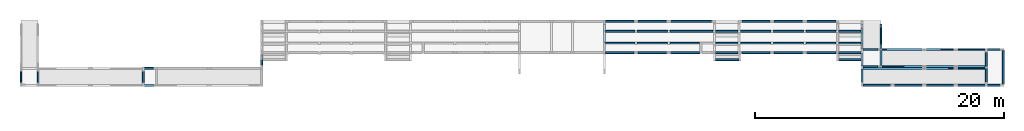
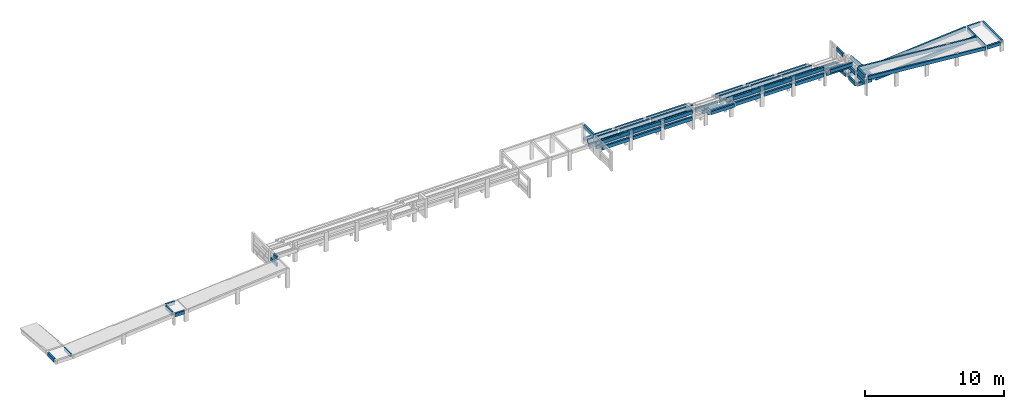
# One storey, part 5 of 9: 78 beams.
"""IFC4 building model written with IfcOpenShell, lengths in centimetres."""

from ifc_helpers import new_model, si_unit, derived_unit, frame, origin_with_axes, origin_2d_with_axis, place, context, project, spatial, rectangle, extrude, clip, halfspace, material, element, save


model = new_model("IFC4")

# Units and contexts
model_context = context("Model", 3, precision=1e-05, world=origin_with_axes(), identifier="Body")
ifc_project = project(units=[si_unit("LENGTHUNIT", "METRE", prefix="CENTI"), si_unit("VOLUMEUNIT", "CUBIC_METRE"), si_unit("AREAUNIT", "SQUARE_METRE"), si_unit("POWERUNIT", "WATT"), si_unit("LUMINOUSFLUXUNIT", "LUMEN"), si_unit("ELECTRICCURRENTUNIT", "AMPERE"), si_unit("PRESSUREUNIT", "PASCAL", prefix="KILO"), si_unit("MASSUNIT", "GRAM", prefix="KILO"), si_unit("PLANEANGLEUNIT", "RADIAN"), derived_unit("VOLUMETRICFLOWRATEUNIT", [(si_unit("LENGTHUNIT", "METRE"), 3), (si_unit("TIMEUNIT", "SECOND"), -1)])], contexts=[model_context])

# Site, building, storey
site_placement = place(None, origin_with_axes())
site = spatial("IfcSite", under=ifc_project, at=site_placement)
building_placement = place(site_placement, frame((0.0, 0.0, -170.0)))
building = spatial("IfcBuilding", under=site, at=building_placement)
placement = place(building_placement, origin_with_axes())
storey_placement = place(placement, frame((0.0, 0.0, 170.0), z_axis=(0.0, 0.0, 1.0), x_axis=(1.0, 0.0, 0.0)))
storey = spatial("IfcBuildingStorey", under=building, at=storey_placement, Name="Arquibancada", CompositionType="ELEMENT", Elevation=0.0)

# Beams
ifc_material = material(Name="Concreto")
beam_1_placement = place(storey_placement, frame((4820.12, 250.5, 0.0), z_axis=(0.0, 0.0, 1.0), x_axis=(1.0, 0.0, 0.0)))
element("IfcBeam", 1, at=beam_1_placement, inside=storey, material=ifc_material, Name="V10", context=model_context, shape_type="SolidModel", body=[
    extrude(rectangle(XDim=14.0, YDim=30.0, at=origin_2d_with_axis()), frame((0.0, -47.5, -15.0), z_axis=(0.0, 1.0, 0.0), x_axis=(1.0, 0.0, 0.0)), (0.0, 0.0, 1.0), 95.0),
])
beam_2_placement = place(storey_placement, frame((4820.12, -53.5, 0.0), z_axis=(0.0, 0.0, 1.0), x_axis=(1.0, 0.0, 0.0)))
element("IfcBeam", 2, at=beam_2_placement, inside=storey, material=ifc_material, Name="V10", context=model_context, shape_type="SolidModel", body=[
    extrude(rectangle(XDim=14.0, YDim=30.0, at=origin_2d_with_axis()), frame((0.0, -53.0, -15.0), z_axis=(0.0, 1.0, 0.0), x_axis=(1.0, 0.0, 0.0)), (0.0, 0.0, 1.0), 106.0),
])
beam_3_placement = place(storey_placement, frame((4493.895, 385.0, -132.0), z_axis=(0.0, 0.0, 1.0), x_axis=(1.0, 0.0, 0.0)))
element("IfcBeam", 3, at=beam_3_placement, inside=storey, material=ifc_material, Name="V103", context=model_context, shape_type="SolidModel", body=[
    extrude(rectangle(XDim=14.0, YDim=30.0, at=origin_2d_with_axis()), frame((-118.725, 0.0, -15.0), z_axis=(1.0, 0.0, 0.0), x_axis=(0.0, 1.0, 0.0)), (0.0, 0.0, 1.0), 237.45),
])
beam_4_placement = place(storey_placement, frame((3970.315, 385.0, -132.0), z_axis=(0.0, 0.0, 1.0), x_axis=(1.0, 0.0, 0.0)))
element("IfcBeam", 4, at=beam_4_placement, inside=storey, material=ifc_material, Name="V103", context=model_context, shape_type="SolidModel", body=[
    extrude(rectangle(XDim=14.0, YDim=30.0, at=origin_2d_with_axis()), frame((-113.225, 0.0, -15.0), z_axis=(1.0, 0.0, 0.0), x_axis=(0.0, 1.0, 0.0)), (0.0, 0.0, 1.0), 226.45),
])
beam_5_placement = place(storey_placement, frame((4229.355, 385.0, -132.0), z_axis=(0.0, 0.0, 1.0), x_axis=(1.0, 0.0, 0.0)))
element("IfcBeam", 5, at=beam_5_placement, inside=storey, material=ifc_material, Name="V103", context=model_context, shape_type="SolidModel", body=[
    extrude(rectangle(XDim=14.0, YDim=30.0, at=origin_2d_with_axis()), frame((-115.815, 0.0, -15.0), z_axis=(1.0, 0.0, 0.0), x_axis=(0.0, 1.0, 0.0)), (0.0, 0.0, 1.0), 231.63),
])
beam_6_placement = place(storey_placement, frame((5321.12, 6.5, 0.0), z_axis=(0.0, 0.0, 1.0), x_axis=(1.0, 0.0, 0.0)))
element("IfcBeam", 6, at=beam_6_placement, inside=storey, material=ifc_material, Name="V12", context=model_context, shape_type="Clipping", body=[
    clip(clip(extrude(rectangle(XDim=14.0, YDim=30.0, at=origin_2d_with_axis()), frame((-495.24067352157, 0.0, -14.948602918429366), z_axis=(-0.996573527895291, 0.0, 0.08271156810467), x_axis=(0.0, -1.0, 0.0)), (0.0, 0.0, -1.0), 993.8868726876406), halfspace(frame((-494.0, 0.0, 0.0), z_axis=(1.0, 0.0, 0.0), x_axis=(0.0, 0.08271156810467, 0.0)), True)), halfspace(frame((494.0, 0.0, -82.0), z_axis=(-1.0, 0.0, 0.0), x_axis=(0.0, -0.08271156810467, 0.0)), True)),
])
beam_7_placement = place(storey_placement, frame((5317.62, -129.5, 0.0), z_axis=(0.0, 0.0, 1.0), x_axis=(1.0, 0.0, 0.0)))
element("IfcBeam", 7, at=beam_7_placement, inside=storey, material=ifc_material, Name="V14", context=model_context, shape_type="Clipping", body=[
    clip(clip(extrude(rectangle(XDim=14.0, YDim=30.0, at=origin_2d_with_axis()), frame((-491.7494652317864, 0.0, -14.947870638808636), z_axis=(-0.996524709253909, 0.0, 0.083297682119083), x_axis=(0.0, -1.0, 0.0)), (0.0, 0.0, -1.0), 986.9287949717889), halfspace(frame((-490.5, 0.0, 0.0), z_axis=(1.0, 0.0, 0.0), x_axis=(0.0, 0.083297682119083, 0.0)), True)), halfspace(frame((490.5, 0.0, -82.0), z_axis=(-1.0, 0.0, 0.0), x_axis=(0.0, -0.083297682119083, 0.0)), True)),
])
beam_8_placement = place(storey_placement, frame((3138.98, 210.0, -56.0), z_axis=(0.0, 0.0, 1.0), x_axis=(1.0, 0.0, 0.0)))
element("IfcBeam", 8, at=beam_8_placement, inside=storey, material=ifc_material, Name="V19", context=model_context, shape_type="SolidModel", body=[
    extrude(rectangle(XDim=14.0, YDim=30.0, at=origin_2d_with_axis()), frame((-121.47, 0.0, -15.0), z_axis=(1.0, 0.0, 0.0), x_axis=(0.0, 1.0, 0.0)), (0.0, 0.0, 1.0), 242.94),
])
beam_9_placement = place(storey_placement, frame((3398.505, 210.0, -56.0), z_axis=(0.0, 0.0, 1.0), x_axis=(1.0, 0.0, 0.0)))
element("IfcBeam", 9, at=beam_9_placement, inside=storey, material=ifc_material, Name="V19", context=model_context, shape_type="SolidModel", body=[
    extrude(rectangle(XDim=14.0, YDim=30.0, at=origin_2d_with_axis()), frame((-119.055, 0.0, -15.0), z_axis=(1.0, 0.0, 0.0), x_axis=(0.0, 1.0, 0.0)), (0.0, 0.0, 1.0), 238.11),
])
beam_10_placement = place(storey_placement, frame((2880.035, 210.0, -56.0), z_axis=(0.0, 0.0, 1.0), x_axis=(1.0, 0.0, 0.0)))
element("IfcBeam", 10, at=beam_10_placement, inside=storey, material=ifc_material, Name="V19", context=model_context, shape_type="SolidModel", body=[
    extrude(rectangle(XDim=14.0, YDim=30.0, at=origin_2d_with_axis()), frame((-118.475, 0.0, -15.0), z_axis=(1.0, 0.0, 0.0), x_axis=(0.0, 1.0, 0.0)), (0.0, 0.0, 1.0), 236.95),
])
beam_11_placement = place(storey_placement, frame((3401.255, 131.0, -56.0), z_axis=(0.0, 0.0, 1.0), x_axis=(1.0, 0.0, 0.0)))
element("IfcBeam", 11, at=beam_11_placement, inside=storey, material=ifc_material, Name="V23", context=model_context, shape_type="SolidModel", body=[
    extrude(rectangle(XDim=14.0, YDim=30.0, at=origin_2d_with_axis()), frame((-116.305, 0.0, -15.0), z_axis=(1.0, 0.0, 0.0), x_axis=(0.0, 1.0, 0.0)), (0.0, 0.0, 1.0), 232.61),
])
beam_12_placement = place(storey_placement, frame((2877.285, 131.0, -56.0), z_axis=(0.0, 0.0, 1.0), x_axis=(1.0, 0.0, 0.0)))
element("IfcBeam", 12, at=beam_12_placement, inside=storey, material=ifc_material, Name="V23", context=model_context, shape_type="SolidModel", body=[
    extrude(rectangle(XDim=14.0, YDim=30.0, at=origin_2d_with_axis()), frame((-115.725, 0.0, -15.0), z_axis=(1.0, 0.0, 0.0), x_axis=(0.0, 1.0, 0.0)), (0.0, 0.0, 1.0), 231.45),
])
beam_13_placement = place(storey_placement, frame((3138.98, 131.0, -56.0), z_axis=(0.0, 0.0, 1.0), x_axis=(1.0, 0.0, 0.0)))
element("IfcBeam", 13, at=beam_13_placement, inside=storey, material=ifc_material, Name="V23", context=model_context, shape_type="SolidModel", body=[
    extrude(rectangle(XDim=14.0, YDim=30.0, at=origin_2d_with_axis()), frame((-115.97, 0.0, -15.0), z_axis=(1.0, 0.0, 0.0), x_axis=(0.0, 1.0, 0.0)), (0.0, 0.0, 1.0), 231.94),
])
beam_14_placement = place(storey_placement, frame((4493.895, 131.0, -56.0), z_axis=(0.0, 0.0, 1.0), x_axis=(1.0, 0.0, 0.0)))
element("IfcBeam", 14, at=beam_14_placement, inside=storey, material=ifc_material, Name="V24", context=model_context, shape_type="SolidModel", body=[
    extrude(rectangle(XDim=14.0, YDim=30.0, at=origin_2d_with_axis()), frame((-118.725, 0.0, -15.0), z_axis=(1.0, 0.0, 0.0), x_axis=(0.0, 1.0, 0.0)), (0.0, 0.0, 1.0), 237.45),
])
beam_15_placement = place(storey_placement, frame((4229.355, 131.0, -56.0), z_axis=(0.0, 0.0, 1.0), x_axis=(1.0, 0.0, 0.0)))
element("IfcBeam", 15, at=beam_15_placement, inside=storey, material=ifc_material, Name="V24", context=model_context, shape_type="SolidModel", body=[
    extrude(rectangle(XDim=14.0, YDim=30.0, at=origin_2d_with_axis()), frame((-115.815, 0.0, -15.0), z_axis=(1.0, 0.0, 0.0), x_axis=(0.0, 1.0, 0.0)), (0.0, 0.0, 1.0), 231.63),
])
beam_16_placement = place(storey_placement, frame((3970.315, 131.0, -56.0), z_axis=(0.0, 0.0, 1.0), x_axis=(1.0, 0.0, 0.0)))
element("IfcBeam", 16, at=beam_16_placement, inside=storey, material=ifc_material, Name="V24", context=model_context, shape_type="SolidModel", body=[
    extrude(rectangle(XDim=14.0, YDim=30.0, at=origin_2d_with_axis()), frame((-113.225, 0.0, -15.0), z_axis=(1.0, 0.0, 0.0), x_axis=(0.0, 1.0, 0.0)), (0.0, 0.0, 1.0), 226.45),
])
beam_17_placement = place(storey_placement, frame((3735.59, 131.0, -56.0), z_axis=(0.0, 0.0, 1.0), x_axis=(1.0, 0.0, 0.0)))
element("IfcBeam", 17, at=beam_17_placement, inside=storey, material=ifc_material, Name="V24", context=model_context, shape_type="SolidModel", body=[
    extrude(rectangle(XDim=14.0, YDim=30.0, at=origin_2d_with_axis()), frame((-91.5, 0.0, -15.0), z_axis=(1.0, 0.0, 0.0), x_axis=(0.0, 1.0, 0.0)), (0.0, 0.0, 1.0), 183.0),
])
beam_18_placement = place(storey_placement, frame((4722.37, 131.0, -56.0), z_axis=(0.0, 0.0, 1.0), x_axis=(1.0, 0.0, 0.0)))
element("IfcBeam", 18, at=beam_18_placement, inside=storey, material=ifc_material, Name="V24", context=model_context, shape_type="SolidModel", body=[
    extrude(rectangle(XDim=14.0, YDim=30.0, at=origin_2d_with_axis()), frame((-90.75, 0.0, -15.0), z_axis=(1.0, 0.0, 0.0), x_axis=(0.0, 1.0, 0.0)), (0.0, 0.0, 1.0), 181.5),
])
for number, where, z_axis, x_axis, name in (
    (19, (-898.5, 7.0, -69.0), (0.0, 0.0, 1.0), (1.0, 0.0, 0.0), "V25"),
    (20, (-898.5, -130.0, -69.0), (0.0, 0.0, 1.0), (1.0, 0.0, 0.0), "V26"),
):
    element("IfcBeam", number, at=place(storey_placement, frame(where, z_axis=z_axis, x_axis=x_axis)), inside=storey, material=ifc_material, Name=name, context=model_context, shape_type="SolidModel", body=[
        extrude(rectangle(XDim=14.0, YDim=30.0, at=origin_2d_with_axis()), frame((-38.0, 0.0, -15.0), z_axis=(1.0, 0.0, 0.0), x_axis=(0.0, -1.0, 0.0)), (0.0, 0.0, 1.0), 76.0),
    ])
beam_19_placement = place(storey_placement, frame((-943.5, -61.5, -69.0), z_axis=(0.0, 0.0, 1.0), x_axis=(1.0, 0.0, 0.0)))
element("IfcBeam", 21, at=beam_19_placement, inside=storey, material=ifc_material, Name="V27", context=model_context, shape_type="SolidModel", body=[
    extrude(rectangle(XDim=14.0, YDim=30.0, at=origin_2d_with_axis()), frame((0.0, -45.5, -15.0), z_axis=(0.0, 1.0, 0.0), x_axis=(-1.0, 0.0, 0.0)), (0.0, 0.0, 1.0), 91.0),
])
beam_20_placement = place(storey_placement, frame((7.5, 73.0, -56.0), z_axis=(0.0, 0.0, 1.0), x_axis=(1.0, 0.0, 0.0)))
element("IfcBeam", 22, at=beam_20_placement, inside=storey, material=ifc_material, Name="V29", context=model_context, shape_type="SolidModel", body=[
    extrude(rectangle(XDim=14.0, YDim=30.0, at=origin_2d_with_axis()), frame((0.0, -43.0, -15.0), z_axis=(0.0, 1.0, 0.0), x_axis=(-1.0, 0.0, 0.0)), (0.0, 0.0, 1.0), 86.0),
])
beam_21_placement = place(storey_placement, frame((3401.255, 131.0, 0.0), z_axis=(0.0, 0.0, 1.0), x_axis=(1.0, 0.0, 0.0)))
element("IfcBeam", 23, at=beam_21_placement, inside=storey, material=ifc_material, Name="V3", context=model_context, shape_type="SolidModel", body=[
    extrude(rectangle(XDim=14.0, YDim=30.0, at=origin_2d_with_axis()), frame((-116.305, 0.0, -15.0), z_axis=(1.0, 0.0, 0.0), x_axis=(0.0, 1.0, 0.0)), (0.0, 0.0, 1.0), 232.61),
])
beam_22_placement = place(storey_placement, frame((3138.98, 131.0, 0.0), z_axis=(0.0, 0.0, 1.0), x_axis=(1.0, 0.0, 0.0)))
element("IfcBeam", 24, at=beam_22_placement, inside=storey, material=ifc_material, Name="V3", context=model_context, shape_type="SolidModel", body=[
    extrude(rectangle(XDim=14.0, YDim=30.0, at=origin_2d_with_axis()), frame((-115.97, 0.0, -15.0), z_axis=(1.0, 0.0, 0.0), x_axis=(0.0, 1.0, 0.0)), (0.0, 0.0, 1.0), 231.94),
])
beam_23_placement = place(storey_placement, frame((2877.285, 131.0, 0.0), z_axis=(0.0, 0.0, 1.0), x_axis=(1.0, 0.0, 0.0)))
element("IfcBeam", 25, at=beam_23_placement, inside=storey, material=ifc_material, Name="V3", context=model_context, shape_type="SolidModel", body=[
    extrude(rectangle(XDim=14.0, YDim=30.0, at=origin_2d_with_axis()), frame((-115.725, 0.0, -15.0), z_axis=(1.0, 0.0, 0.0), x_axis=(0.0, 1.0, 0.0)), (0.0, 0.0, 1.0), 231.45),
])
beam_24_placement = place(storey_placement, frame((4820.12, 76.25, -56.0), z_axis=(0.0, 0.0, 1.0), x_axis=(1.0, 0.0, 0.0)))
element("IfcBeam", 26, at=beam_24_placement, inside=storey, material=ifc_material, Name="V31", context=model_context, shape_type="SolidModel", body=[
    extrude(rectangle(XDim=14.0, YDim=30.0, at=origin_2d_with_axis()), frame((0.0, -47.75, -15.0), z_axis=(0.0, 1.0, 0.0), x_axis=(1.0, 0.0, 0.0)), (0.0, 0.0, 1.0), 95.5),
])
beam_25_placement = place(storey_placement, frame((4820.12, -53.5, -56.0), z_axis=(0.0, 0.0, 1.0), x_axis=(1.0, 0.0, 0.0)))
element("IfcBeam", 27, at=beam_25_placement, inside=storey, material=ifc_material, Name="V31", context=model_context, shape_type="SolidModel", body=[
    extrude(rectangle(XDim=14.0, YDim=30.0, at=origin_2d_with_axis()), frame((0.0, -53.0, -15.0), z_axis=(0.0, 1.0, 0.0), x_axis=(1.0, 0.0, 0.0)), (0.0, 0.0, 1.0), 106.0),
])
beam_26_placement = place(storey_placement, frame((3452.27, 305.0, -94.0), z_axis=(0.0, 0.0, 1.0), x_axis=(1.0, 0.0, 0.0)))
element("IfcBeam", 28, at=beam_26_placement, inside=storey, material=ifc_material, Name="V36", context=model_context, shape_type="SolidModel", body=[
    extrude(rectangle(XDim=14.0, YDim=30.0, at=origin_2d_with_axis()), frame((-172.82, 0.0, -15.0), z_axis=(1.0, 0.0, 0.0), x_axis=(0.0, 1.0, 0.0)), (0.0, 0.0, 1.0), 345.64),
])
beam_27_placement = place(storey_placement, frame((2873.035, 305.0, -94.0), z_axis=(0.0, 0.0, 1.0), x_axis=(1.0, 0.0, 0.0)))
element("IfcBeam", 29, at=beam_27_placement, inside=storey, material=ifc_material, Name="V36", context=model_context, shape_type="SolidModel", body=[
    extrude(rectangle(XDim=14.0, YDim=30.0, at=origin_2d_with_axis()), frame((-125.475, 0.0, -15.0), z_axis=(1.0, 0.0, 0.0), x_axis=(0.0, 1.0, 0.0)), (0.0, 0.0, 1.0), 250.95),
])
beam_28_placement = place(storey_placement, frame((3138.98, 305.0, -94.0), z_axis=(0.0, 0.0, 1.0), x_axis=(1.0, 0.0, 0.0)))
element("IfcBeam", 30, at=beam_28_placement, inside=storey, material=ifc_material, Name="V36", context=model_context, shape_type="SolidModel", body=[
    extrude(rectangle(XDim=14.0, YDim=30.0, at=origin_2d_with_axis()), frame((-121.47, 0.0, -15.0), z_axis=(1.0, 0.0, 0.0), x_axis=(0.0, 1.0, 0.0)), (0.0, 0.0, 1.0), 242.94),
])
for number, where, z_axis, x_axis, name in (
    (31, (3967.565, 210.0, -94.0), (0.0, 0.0, 1.0), (1.0, 0.0, 0.0), "V38"),
    (32, (4491.145, 210.0, -94.0), (0.0, 0.0, 1.0), (1.0, 0.0, 0.0), "V38"),
):
    element("IfcBeam", number, at=place(storey_placement, frame(where, z_axis=z_axis, x_axis=x_axis)), inside=storey, material=ifc_material, Name=name, context=model_context, shape_type="SolidModel", body=[
        extrude(rectangle(XDim=14.0, YDim=30.0, at=origin_2d_with_axis()), frame((-121.475, 0.0, -15.0), z_axis=(1.0, 0.0, 0.0), x_axis=(0.0, 1.0, 0.0)), (0.0, 0.0, 1.0), 242.95),
    ])
beam_29_placement = place(storey_placement, frame((4722.37, 210.0, -94.0), z_axis=(0.0, 0.0, 1.0), x_axis=(1.0, 0.0, 0.0)))
element("IfcBeam", 33, at=beam_29_placement, inside=storey, material=ifc_material, Name="V38", context=model_context, shape_type="SolidModel", body=[
    extrude(rectangle(XDim=14.0, YDim=30.0, at=origin_2d_with_axis()), frame((-90.75, 0.0, -15.0), z_axis=(1.0, 0.0, 0.0), x_axis=(0.0, 1.0, 0.0)), (0.0, 0.0, 1.0), 181.5),
])
beam_30_placement = place(storey_placement, frame((4229.355, 210.0, -94.0), z_axis=(0.0, 0.0, 1.0), x_axis=(1.0, 0.0, 0.0)))
element("IfcBeam", 34, at=beam_30_placement, inside=storey, material=ifc_material, Name="V38", context=model_context, shape_type="SolidModel", body=[
    extrude(rectangle(XDim=14.0, YDim=30.0, at=origin_2d_with_axis()), frame((-121.315, 0.0, -15.0), z_axis=(1.0, 0.0, 0.0), x_axis=(0.0, 1.0, 0.0)), (0.0, 0.0, 1.0), 242.63),
])
beam_31_placement = place(storey_placement, frame((3735.59, 210.0, -94.0), z_axis=(0.0, 0.0, 1.0), x_axis=(1.0, 0.0, 0.0)))
element("IfcBeam", 35, at=beam_31_placement, inside=storey, material=ifc_material, Name="V38", context=model_context, shape_type="SolidModel", body=[
    extrude(rectangle(XDim=14.0, YDim=30.0, at=origin_2d_with_axis()), frame((-91.5, 0.0, -15.0), z_axis=(1.0, 0.0, 0.0), x_axis=(0.0, 1.0, 0.0)), (0.0, 0.0, 1.0), 183.0),
])
beam_32_placement = place(storey_placement, frame((2880.035, 210.0, -94.0), z_axis=(0.0, 0.0, 1.0), x_axis=(1.0, 0.0, 0.0)))
element("IfcBeam", 36, at=beam_32_placement, inside=storey, material=ifc_material, Name="V38", context=model_context, shape_type="SolidModel", body=[
    extrude(rectangle(XDim=14.0, YDim=30.0, at=origin_2d_with_axis()), frame((-118.475, 0.0, -15.0), z_axis=(1.0, 0.0, 0.0), x_axis=(0.0, 1.0, 0.0)), (0.0, 0.0, 1.0), 236.95),
])
beam_33_placement = place(storey_placement, frame((3138.98, 210.0, -94.0), z_axis=(0.0, 0.0, 1.0), x_axis=(1.0, 0.0, 0.0)))
element("IfcBeam", 37, at=beam_33_placement, inside=storey, material=ifc_material, Name="V38", context=model_context, shape_type="SolidModel", body=[
    extrude(rectangle(XDim=14.0, YDim=30.0, at=origin_2d_with_axis()), frame((-121.47, 0.0, -15.0), z_axis=(1.0, 0.0, 0.0), x_axis=(0.0, 1.0, 0.0)), (0.0, 0.0, 1.0), 242.94),
])
beam_34_placement = place(storey_placement, frame((3398.505, 210.0, -94.0), z_axis=(0.0, 0.0, 1.0), x_axis=(1.0, 0.0, 0.0)))
element("IfcBeam", 38, at=beam_34_placement, inside=storey, material=ifc_material, Name="V38", context=model_context, shape_type="SolidModel", body=[
    extrude(rectangle(XDim=14.0, YDim=30.0, at=origin_2d_with_axis()), frame((-119.055, 0.0, -15.0), z_axis=(1.0, 0.0, 0.0), x_axis=(0.0, 1.0, 0.0)), (0.0, 0.0, 1.0), 238.11),
])
for number, where, z_axis, x_axis, name in (
    (39, (5875.12, 157.5, -82.0), (0.0, 0.0, 1.0), (1.0, 0.0, 0.0), "V39"),
    (40, (5875.12, -129.5, -82.0), (0.0, 0.0, 1.0), (1.0, 0.0, 0.0), "V40"),
):
    element("IfcBeam", number, at=place(storey_placement, frame(where, z_axis=z_axis, x_axis=x_axis)), inside=storey, material=ifc_material, Name=name, context=model_context, shape_type="SolidModel", body=[
        extrude(rectangle(XDim=14.0, YDim=30.0, at=origin_2d_with_axis()), frame((-53.0, 0.0, -15.0), z_axis=(1.0, 0.0, 0.0), x_axis=(0.0, 1.0, 0.0)), (0.0, 0.0, 1.0), 106.0),
    ])
for number, where, z_axis, x_axis, name in (
    (41, (5815.12, 78.0, -82.0), (0.0, 0.0, 1.0), (1.0, 0.0, 0.0), "V46"),
    (42, (5815.12, -50.0, -82.0), (0.0, 0.0, 1.0), (1.0, 0.0, 0.0), "V46"),
):
    element("IfcBeam", number, at=place(storey_placement, frame(where, z_axis=z_axis, x_axis=x_axis)), inside=storey, material=ifc_material, Name=name, context=model_context, shape_type="SolidModel", body=[
        extrude(rectangle(XDim=14.0, YDim=30.0, at=origin_2d_with_axis()), frame((0.0, -56.5, -15.0), z_axis=(0.0, 1.0, 0.0), x_axis=(1.0, 0.0, 0.0)), (0.0, 0.0, 1.0), 113.0),
    ])
beam_35_placement = place(storey_placement, frame((5951.12, 14.0, -82.0), z_axis=(0.0, 0.0, 1.0), x_axis=(1.0, 0.0, 0.0)))
element("IfcBeam", 43, at=beam_35_placement, inside=storey, material=ifc_material, Name="V47", context=model_context, shape_type="SolidModel", body=[
    extrude(rectangle(XDim=14.0, YDim=30.0, at=origin_2d_with_axis()), frame((0.0, -136.5, -15.0), z_axis=(0.0, 1.0, 0.0), x_axis=(1.0, 0.0, 0.0)), (0.0, 0.0, 1.0), 273.0),
])
beam_36_placement = place(storey_placement, frame((5393.12, 157.5, -82.0), z_axis=(0.0, 0.0, 1.0), x_axis=(1.0, 0.0, 0.0)))
element("IfcBeam", 44, at=beam_36_placement, inside=storey, material=ifc_material, Name="V48", context=model_context, shape_type="Clipping", body=[
    clip(clip(extrude(rectangle(XDim=14.0, YDim=30.0, at=origin_2d_with_axis()), frame((416.24270118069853, 0.0, -14.948434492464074), z_axis=(0.996562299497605, 0.0, 0.082846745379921), x_axis=(0.0, 1.0, 0.0)), (0.0, 0.0, -1.0), 835.3571099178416), halfspace(frame((415.0, 0.0, 0.0), z_axis=(-1.0, 0.0, 0.0), x_axis=(0.0, -0.082846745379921, 0.0)), True)), halfspace(frame((-415.0, 0.0, -69.0), z_axis=(1.0, 0.0, 0.0), x_axis=(0.0, 0.082846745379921, 0.0)), True)),
])
beam_37_placement = place(storey_placement, frame((5396.62, 21.5, -82.0), z_axis=(0.0, 0.0, 1.0), x_axis=(1.0, 0.0, 0.0)))
element("IfcBeam", 45, at=beam_37_placement, inside=storey, material=ifc_material, Name="V49", context=model_context, shape_type="Clipping", body=[
    clip(clip(extrude(rectangle(XDim=14.0, YDim=30.0, at=origin_2d_with_axis()), frame((419.7323786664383, 0.0, -14.94928904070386), z_axis=(0.996619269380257, 0.0, 0.08215857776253), x_axis=(0.0, 1.0, 0.0)), (0.0, 0.0, -1.0), 842.3123886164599), halfspace(frame((418.5, 0.0, 0.0), z_axis=(-1.0, 0.0, 0.0), x_axis=(0.0, -0.08215857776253, 0.0)), True)), halfspace(frame((-418.5, 0.0, -69.0), z_axis=(1.0, 0.0, 0.0), x_axis=(0.0, 0.08215857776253, 0.0)), True)),
])
beam_38_placement = place(storey_placement, frame((7.5, 53.0, 0.0), z_axis=(0.0, 0.0, 1.0), x_axis=(1.0, 0.0, 0.0)))
element("IfcBeam", 46, at=beam_38_placement, inside=storey, material=ifc_material, Name="V5", context=model_context, shape_type="SolidModel", body=[
    extrude(rectangle(XDim=14.0, YDim=30.0, at=origin_2d_with_axis()), frame((0.0, -23.0, -15.0), z_axis=(0.0, 1.0, 0.0), x_axis=(-1.0, 0.0, 0.0)), (0.0, 0.0, 1.0), 46.0),
])
beam_39_placement = place(storey_placement, frame((3449.52, 385.0, -132.0), z_axis=(0.0, 0.0, 1.0), x_axis=(1.0, 0.0, 0.0)))
element("IfcBeam", 47, at=beam_39_placement, inside=storey, material=ifc_material, Name="V51", context=model_context, shape_type="SolidModel", body=[
    extrude(rectangle(XDim=14.0, YDim=30.0, at=origin_2d_with_axis()), frame((-164.57, 0.0, -15.0), z_axis=(1.0, 0.0, 0.0), x_axis=(0.0, 1.0, 0.0)), (0.0, 0.0, 1.0), 329.14),
])
beam_40_placement = place(storey_placement, frame((3138.98, 385.0, -132.0), z_axis=(0.0, 0.0, 1.0), x_axis=(1.0, 0.0, 0.0)))
element("IfcBeam", 48, at=beam_40_placement, inside=storey, material=ifc_material, Name="V51", context=model_context, shape_type="SolidModel", body=[
    extrude(rectangle(XDim=14.0, YDim=30.0, at=origin_2d_with_axis()), frame((-115.97, 0.0, -15.0), z_axis=(1.0, 0.0, 0.0), x_axis=(0.0, 1.0, 0.0)), (0.0, 0.0, 1.0), 231.94),
])
beam_41_placement = place(storey_placement, frame((2877.285, 385.0, -132.0), z_axis=(0.0, 0.0, 1.0), x_axis=(1.0, 0.0, 0.0)))
element("IfcBeam", 49, at=beam_41_placement, inside=storey, material=ifc_material, Name="V51", context=model_context, shape_type="SolidModel", body=[
    extrude(rectangle(XDim=14.0, YDim=30.0, at=origin_2d_with_axis()), frame((-115.725, 0.0, -15.0), z_axis=(1.0, 0.0, 0.0), x_axis=(0.0, 1.0, 0.0)), (0.0, 0.0, 1.0), 231.45),
])
beam_42_placement = place(storey_placement, frame((3138.98, 305.0, -132.0), z_axis=(0.0, 0.0, 1.0), x_axis=(1.0, 0.0, 0.0)))
element("IfcBeam", 50, at=beam_42_placement, inside=storey, material=ifc_material, Name="V53", context=model_context, shape_type="SolidModel", body=[
    extrude(rectangle(XDim=14.0, YDim=30.0, at=origin_2d_with_axis()), frame((-121.47, 0.0, -15.0), z_axis=(1.0, 0.0, 0.0), x_axis=(0.0, 1.0, 0.0)), (0.0, 0.0, 1.0), 242.94),
])
beam_43_placement = place(storey_placement, frame((3452.27, 305.0, -132.0), z_axis=(0.0, 0.0, 1.0), x_axis=(1.0, 0.0, 0.0)))
element("IfcBeam", 51, at=beam_43_placement, inside=storey, material=ifc_material, Name="V53", context=model_context, shape_type="SolidModel", body=[
    extrude(rectangle(XDim=14.0, YDim=30.0, at=origin_2d_with_axis()), frame((-172.82, 0.0, -15.0), z_axis=(1.0, 0.0, 0.0), x_axis=(0.0, 1.0, 0.0)), (0.0, 0.0, 1.0), 345.64),
])
beam_44_placement = place(storey_placement, frame((2876.535, 305.0, -132.0), z_axis=(0.0, 0.0, 1.0), x_axis=(1.0, 0.0, 0.0)))
element("IfcBeam", 52, at=beam_44_placement, inside=storey, material=ifc_material, Name="V53", context=model_context, shape_type="SolidModel", body=[
    extrude(rectangle(XDim=14.0, YDim=30.0, at=origin_2d_with_axis()), frame((-121.975, 0.0, -15.0), z_axis=(1.0, 0.0, 0.0), x_axis=(0.0, 1.0, 0.0)), (0.0, 0.0, 1.0), 243.95),
])
for number, where, z_axis, x_axis, name in (
    (53, (3967.565, 305.0, -132.0), (0.0, 0.0, 1.0), (1.0, 0.0, 0.0), "V53"),
    (54, (4491.145, 305.0, -132.0), (0.0, 0.0, 1.0), (1.0, 0.0, 0.0), "V53"),
):
    element("IfcBeam", number, at=place(storey_placement, frame(where, z_axis=z_axis, x_axis=x_axis)), inside=storey, material=ifc_material, Name=name, context=model_context, shape_type="SolidModel", body=[
        extrude(rectangle(XDim=14.0, YDim=30.0, at=origin_2d_with_axis()), frame((-121.475, 0.0, -15.0), z_axis=(1.0, 0.0, 0.0), x_axis=(0.0, 1.0, 0.0)), (0.0, 0.0, 1.0), 242.95),
    ])
beam_45_placement = place(storey_placement, frame((3735.59, 305.0, -132.0), z_axis=(0.0, 0.0, 1.0), x_axis=(1.0, 0.0, 0.0)))
element("IfcBeam", 55, at=beam_45_placement, inside=storey, material=ifc_material, Name="V53", context=model_context, shape_type="SolidModel", body=[
    extrude(rectangle(XDim=14.0, YDim=30.0, at=origin_2d_with_axis()), frame((-91.5, 0.0, -15.0), z_axis=(1.0, 0.0, 0.0), x_axis=(0.0, 1.0, 0.0)), (0.0, 0.0, 1.0), 183.0),
])
beam_46_placement = place(storey_placement, frame((4229.355, 305.0, -132.0), z_axis=(0.0, 0.0, 1.0), x_axis=(1.0, 0.0, 0.0)))
element("IfcBeam", 56, at=beam_46_placement, inside=storey, material=ifc_material, Name="V53", context=model_context, shape_type="SolidModel", body=[
    extrude(rectangle(XDim=14.0, YDim=30.0, at=origin_2d_with_axis()), frame((-121.315, 0.0, -15.0), z_axis=(1.0, 0.0, 0.0), x_axis=(0.0, 1.0, 0.0)), (0.0, 0.0, 1.0), 242.63),
])
beam_47_placement = place(storey_placement, frame((4722.37, 305.0, -132.0), z_axis=(0.0, 0.0, 1.0), x_axis=(1.0, 0.0, 0.0)))
element("IfcBeam", 57, at=beam_47_placement, inside=storey, material=ifc_material, Name="V53", context=model_context, shape_type="SolidModel", body=[
    extrude(rectangle(XDim=14.0, YDim=30.0, at=origin_2d_with_axis()), frame((-90.75, 0.0, -15.0), z_axis=(1.0, 0.0, 0.0), x_axis=(0.0, 1.0, 0.0)), (0.0, 0.0, 1.0), 181.5),
])
for number, where, z_axis, x_axis, name in (
    (58, (4887.62, 157.5, -151.0), (0.0, 0.0, 1.0), (1.0, 0.0, 0.0), "V54"),
    (59, (4887.62, 21.5, -151.0), (0.0, 0.0, 1.0), (1.0, 0.0, 0.0), "V56"),
):
    element("IfcBeam", number, at=place(storey_placement, frame(where, z_axis=z_axis, x_axis=x_axis)), inside=storey, material=ifc_material, Name=name, context=model_context, shape_type="SolidModel", body=[
        extrude(rectangle(XDim=14.0, YDim=30.0, at=origin_2d_with_axis()), frame((-60.5, 0.0, -15.0), z_axis=(1.0, 0.0, 0.0), x_axis=(0.0, 1.0, 0.0)), (0.0, 0.0, 1.0), 121.0),
    ])
for number, where, z_axis, x_axis, name in (
    (60, (-1924.5, -61.5, -138.0), (0.0, 0.0, 1.0), (1.0, 0.0, 0.0), "V58"),
    (61, (-1787.5, -61.5, -138.0), (0.0, 0.0, 1.0), (1.0, 0.0, 0.0), "V59"),
):
    element("IfcBeam", number, at=place(storey_placement, frame(where, z_axis=z_axis, x_axis=x_axis)), inside=storey, material=ifc_material, Name=name, context=model_context, shape_type="SolidModel", body=[
        extrude(rectangle(XDim=14.0, YDim=30.0, at=origin_2d_with_axis()), frame((0.0, -45.5, -15.0), z_axis=(0.0, 1.0, 0.0), x_axis=(-1.0, 0.0, 0.0)), (0.0, 0.0, 1.0), 91.0),
    ])
beam_48_placement = place(storey_placement, frame((4820.12, 76.25, -151.0), z_axis=(0.0, 0.0, 1.0), x_axis=(1.0, 0.0, 0.0)))
element("IfcBeam", 62, at=beam_48_placement, inside=storey, material=ifc_material, Name="V63", context=model_context, shape_type="SolidModel", body=[
    extrude(rectangle(XDim=14.0, YDim=30.0, at=origin_2d_with_axis()), frame((0.0, -47.75, -15.0), z_axis=(0.0, 1.0, 0.0), x_axis=(1.0, 0.0, 0.0)), (0.0, 0.0, 1.0), 95.5),
])
beam_49_placement = place(storey_placement, frame((4820.12, 250.5, -132.0), z_axis=(0.0, 0.0, 1.0), x_axis=(1.0, 0.0, 0.0)))
element("IfcBeam", 63, at=beam_49_placement, inside=storey, material=ifc_material, Name="V64", context=model_context, shape_type="SolidModel", body=[
    extrude(rectangle(XDim=14.0, YDim=30.0, at=origin_2d_with_axis()), frame((0.0, -47.5, -15.0), z_axis=(0.0, 1.0, 0.0), x_axis=(1.0, 0.0, 0.0)), (0.0, 0.0, 1.0), 95.0),
])
beam_50_placement = place(storey_placement, frame((4820.12, 263.0, -151.0), z_axis=(0.0, 0.0, 1.0), x_axis=(1.0, 0.0, 0.0)))
element("IfcBeam", 64, at=beam_50_placement, inside=storey, material=ifc_material, Name="V68", context=model_context, shape_type="Clipping", body=[
    clip(clip(extrude(rectangle(XDim=14.0, YDim=30.0, at=origin_2d_with_axis()), frame((0.0, -100.43281221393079, -14.931411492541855), z_axis=(0.0, -0.995427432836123, 0.095520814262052), x_axis=(1.0, 0.0, 0.0)), (0.0, 0.0, -1.0), 201.78831505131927), halfspace(frame((0.0, -99.0, 0.0), z_axis=(0.0, 1.0, 0.0), x_axis=(-0.095520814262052, 0.0, 0.0)), True)), halfspace(frame((0.0, 99.0, -19.0), z_axis=(0.0, -1.0, 0.0), x_axis=(0.095520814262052, 0.0, 0.0)), True)),
])
beam_51_placement = place(storey_placement, frame((4971.12, 263.25, -151.0), z_axis=(0.0, 0.0, 1.0), x_axis=(1.0, 0.0, 0.0)))
element("IfcBeam", 65, at=beam_51_placement, inside=storey, material=ifc_material, Name="V69", context=model_context, shape_type="Clipping", body=[
    clip(clip(extrude(rectangle(XDim=14.0, YDim=30.0, at=origin_2d_with_axis()), frame((0.0, -100.18640636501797, -14.93106616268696), z_axis=(0.0, -0.995404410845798, 0.095760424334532), x_axis=(1.0, 0.0, 0.0)), (0.0, 0.0, -1.0), 201.2978951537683), halfspace(frame((0.0, -98.75, 0.0), z_axis=(0.0, 1.0, 0.0), x_axis=(-0.095760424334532, 0.0, 0.0)), True)), halfspace(frame((0.0, 98.75, -19.0), z_axis=(0.0, -1.0, 0.0), x_axis=(0.095760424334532, 0.0, 0.0)), True)),
])
beam_52_placement = place(storey_placement, frame((4971.12, 89.5, -151.0), z_axis=(0.0, 0.0, 1.0), x_axis=(1.0, 0.0, 0.0)))
element("IfcBeam", 66, at=beam_52_placement, inside=storey, material=ifc_material, Name="V70", context=model_context, shape_type="SolidModel", body=[
    extrude(rectangle(XDim=14.0, YDim=30.0, at=origin_2d_with_axis()), frame((0.0, -61.0, -15.0), z_axis=(0.0, 1.0, 0.0), x_axis=(1.0, 0.0, 0.0)), (0.0, 0.0, 1.0), 122.0),
])
beam_53_placement = place(storey_placement, frame((4725.87, 76.0, 0.0), z_axis=(0.0, 0.0, 1.0), x_axis=(1.0, 0.0, 0.0)))
element("IfcBeam", 67, at=beam_53_placement, inside=storey, material=ifc_material, Name="V78", context=model_context, shape_type="SolidModel", body=[
    extrude(rectangle(XDim=14.0, YDim=30.0, at=origin_2d_with_axis()), frame((-94.25, 0.0, -15.0), z_axis=(1.0, 0.0, 0.0), x_axis=(0.0, 1.0, 0.0)), (0.0, 0.0, 1.0), 188.5),
])
beam_54_placement = place(storey_placement, frame((3739.09, 76.0, -19.0), z_axis=(0.0, 0.0, 1.0), x_axis=(1.0, 0.0, 0.0)))
element("IfcBeam", 68, at=beam_54_placement, inside=storey, material=ifc_material, Name="V81", context=model_context, shape_type="SolidModel", body=[
    extrude(rectangle(XDim=14.0, YDim=30.0, at=origin_2d_with_axis()), frame((-95.0, 0.0, -15.0), z_axis=(1.0, 0.0, 0.0), x_axis=(0.0, 1.0, 0.0)), (0.0, 0.0, 1.0), 190.0),
])
beam_55_placement = place(storey_placement, frame((4493.895, 131.0, 0.0), z_axis=(0.0, 0.0, 1.0), x_axis=(1.0, 0.0, 0.0)))
element("IfcBeam", 69, at=beam_55_placement, inside=storey, material=ifc_material, Name="V82", context=model_context, shape_type="SolidModel", body=[
    extrude(rectangle(XDim=14.0, YDim=30.0, at=origin_2d_with_axis()), frame((-118.725, 0.0, -15.0), z_axis=(1.0, 0.0, 0.0), x_axis=(0.0, 1.0, 0.0)), (0.0, 0.0, 1.0), 237.45),
])
beam_56_placement = place(storey_placement, frame((3970.315, 131.0, 0.0), z_axis=(0.0, 0.0, 1.0), x_axis=(1.0, 0.0, 0.0)))
element("IfcBeam", 70, at=beam_56_placement, inside=storey, material=ifc_material, Name="V82", context=model_context, shape_type="SolidModel", body=[
    extrude(rectangle(XDim=14.0, YDim=30.0, at=origin_2d_with_axis()), frame((-113.225, 0.0, -15.0), z_axis=(1.0, 0.0, 0.0), x_axis=(0.0, 1.0, 0.0)), (0.0, 0.0, 1.0), 226.45),
])
beam_57_placement = place(storey_placement, frame((4229.355, 131.0, 0.0), z_axis=(0.0, 0.0, 1.0), x_axis=(1.0, 0.0, 0.0)))
element("IfcBeam", 71, at=beam_57_placement, inside=storey, material=ifc_material, Name="V82", context=model_context, shape_type="SolidModel", body=[
    extrude(rectangle(XDim=14.0, YDim=30.0, at=origin_2d_with_axis()), frame((-115.815, 0.0, -15.0), z_axis=(1.0, 0.0, 0.0), x_axis=(0.0, 1.0, 0.0)), (0.0, 0.0, 1.0), 231.63),
])
beam_58_placement = place(storey_placement, frame((3967.565, 210.0, -56.0), z_axis=(0.0, 0.0, 1.0), x_axis=(1.0, 0.0, 0.0)))
element("IfcBeam", 72, at=beam_58_placement, inside=storey, material=ifc_material, Name="V89", context=model_context, shape_type="SolidModel", body=[
    extrude(rectangle(XDim=14.0, YDim=30.0, at=origin_2d_with_axis()), frame((-121.475, 0.0, -15.0), z_axis=(1.0, 0.0, 0.0), x_axis=(0.0, 1.0, 0.0)), (0.0, 0.0, 1.0), 242.95),
])
beam_59_placement = place(storey_placement, frame((4229.355, 210.0, -56.0), z_axis=(0.0, 0.0, 1.0), x_axis=(1.0, 0.0, 0.0)))
element("IfcBeam", 73, at=beam_59_placement, inside=storey, material=ifc_material, Name="V89", context=model_context, shape_type="SolidModel", body=[
    extrude(rectangle(XDim=14.0, YDim=30.0, at=origin_2d_with_axis()), frame((-121.315, 0.0, -15.0), z_axis=(1.0, 0.0, 0.0), x_axis=(0.0, 1.0, 0.0)), (0.0, 0.0, 1.0), 242.63),
])
beam_60_placement = place(storey_placement, frame((4491.145, 210.0, -56.0), z_axis=(0.0, 0.0, 1.0), x_axis=(1.0, 0.0, 0.0)))
element("IfcBeam", 74, at=beam_60_placement, inside=storey, material=ifc_material, Name="V89", context=model_context, shape_type="SolidModel", body=[
    extrude(rectangle(XDim=14.0, YDim=30.0, at=origin_2d_with_axis()), frame((-121.475, 0.0, -15.0), z_axis=(1.0, 0.0, 0.0), x_axis=(0.0, 1.0, 0.0)), (0.0, 0.0, 1.0), 242.95),
])
beam_61_placement = place(storey_placement, frame((2754.56, 289.5, 0.0), z_axis=(0.0, 0.0, 1.0), x_axis=(1.0, 0.0, 0.0)))
element("IfcBeam", 75, at=beam_61_placement, inside=storey, material=ifc_material, Name="V9", context=model_context, shape_type="SolidModel", body=[
    extrude(rectangle(XDim=14.0, YDim=30.0, at=origin_2d_with_axis()), frame((0.0, -72.5, -15.0), z_axis=(0.0, 1.0, 0.0), x_axis=(1.0, 0.0, 0.0)), (0.0, 0.0, 1.0), 145.0),
])
beam_62_placement = place(storey_placement, frame((3967.565, 305.0, -94.0), z_axis=(0.0, 0.0, 1.0), x_axis=(1.0, 0.0, 0.0)))
element("IfcBeam", 76, at=beam_62_placement, inside=storey, material=ifc_material, Name="V99", context=model_context, shape_type="SolidModel", body=[
    extrude(rectangle(XDim=14.0, YDim=30.0, at=origin_2d_with_axis()), frame((-121.475, 0.0, -15.0), z_axis=(1.0, 0.0, 0.0), x_axis=(0.0, 1.0, 0.0)), (0.0, 0.0, 1.0), 242.95),
])
beam_63_placement = place(storey_placement, frame((4229.355, 305.0, -94.0), z_axis=(0.0, 0.0, 1.0), x_axis=(1.0, 0.0, 0.0)))
element("IfcBeam", 77, at=beam_63_placement, inside=storey, material=ifc_material, Name="V99", context=model_context, shape_type="SolidModel", body=[
    extrude(rectangle(XDim=14.0, YDim=30.0, at=origin_2d_with_axis()), frame((-121.315, 0.0, -15.0), z_axis=(1.0, 0.0, 0.0), x_axis=(0.0, 1.0, 0.0)), (0.0, 0.0, 1.0), 242.63),
])
beam_64_placement = place(storey_placement, frame((4491.145, 305.0, -94.0), z_axis=(0.0, 0.0, 1.0), x_axis=(1.0, 0.0, 0.0)))
element("IfcBeam", 78, at=beam_64_placement, inside=storey, material=ifc_material, Name="V99", context=model_context, shape_type="SolidModel", body=[
    extrude(rectangle(XDim=14.0, YDim=30.0, at=origin_2d_with_axis()), frame((-121.475, 0.0, -15.0), z_axis=(1.0, 0.0, 0.0), x_axis=(0.0, 1.0, 0.0)), (0.0, 0.0, 1.0), 242.95),
])

save(model, "model.ifc")
